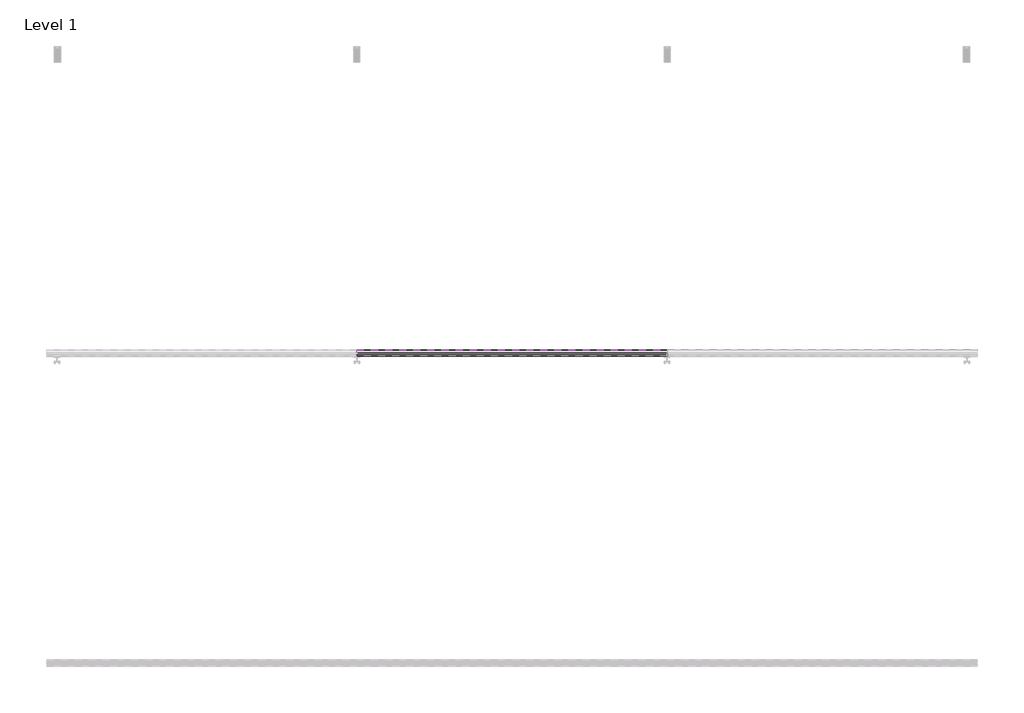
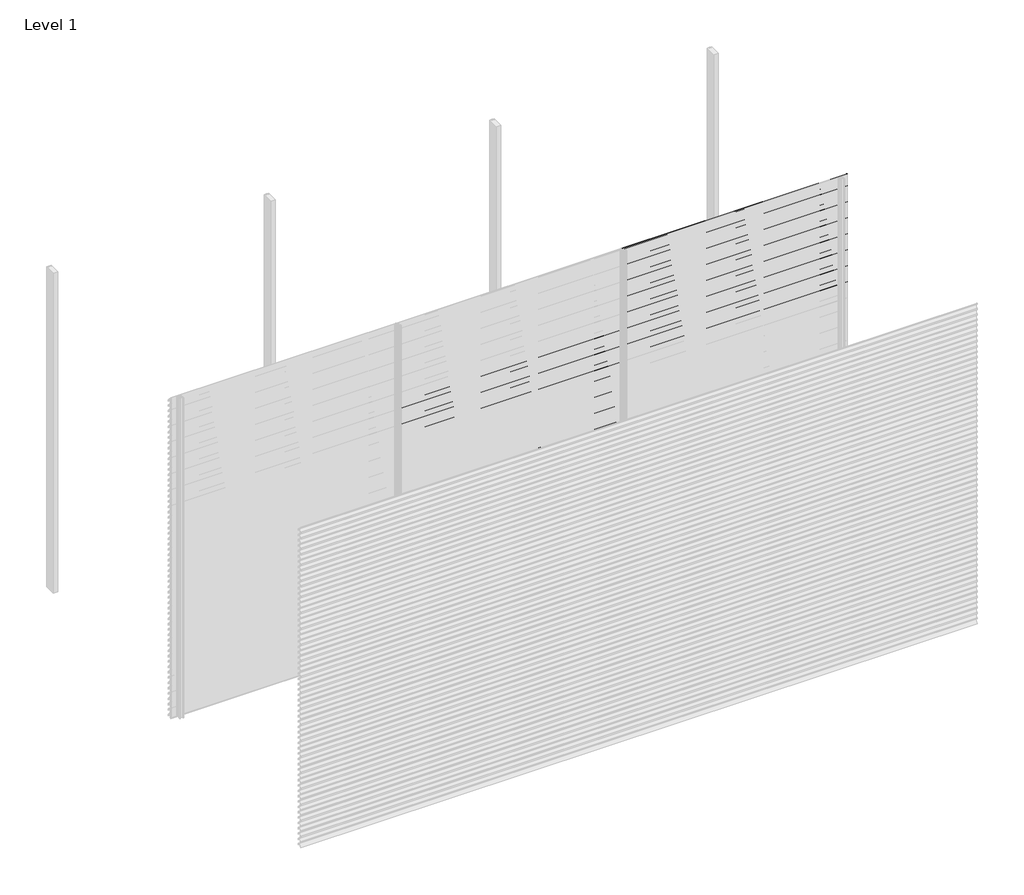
# One storey, part 12 of 38: 66 proxies.
"""IFC4 building model written with IfcOpenShell, lengths in millimetres."""

from ifc_helpers import new_model, si_unit, frame, origin, place, context, project, spatial, polyline, outline, extrude, element, save

model = new_model("IFC4")

# Units and contexts
model_context = context("Model", 3, world=origin())
ifc_project = project(units=[si_unit("LENGTHUNIT", "METRE", prefix="MILLI")], contexts=[model_context])

# Site, building, storey
site = spatial("IfcSite", under=ifc_project)
building = spatial("IfcBuilding", under=site)
storey = spatial("IfcBuildingStorey", under=building, Name="Level 1", Elevation=0.0)

# Proxies
placement = place(None, origin())
element("IfcBuildingElementProxy", 1, Name="Wall Sweeps", at=placement, inside=storey, context=model_context, shape_type="SweptSolid", body=[
    extrude(outline(polyline([(-41996.75, 2250.0), (-41996.75, 2239.19656), (-41974.6057113, 2226.4115489), (-41957.0, 2209.0472005), (-41957.0, 2194.0472005), (-41958.3, 2195.0268207), (-41958.3, 2208.5034593), (-41969.4914725, 2219.541504), (-41994.2797376, 2190.0), (-41995.9767671, 2190.0), (-41970.4200307, 2220.4573323), (-41975.3999793, 2225.3690091), (-41998.0, 2238.4171371), (-41998.0, 2250.0), (-41996.75, 2250.0)])), frame((2000.0, 0.0, 0.0), z_axis=(1.0, 0.0, 0.0), x_axis=(0.0, 1.0, 0.0)), (0.0, 0.0, 1.0), 2000.0),
])
element("IfcBuildingElementProxy", 2, Name="Wall Sweeps", at=placement, inside=storey, context=model_context, shape_type="SweptSolid", body=[
    extrude(outline(polyline([(-41996.75, 2200.0), (-41996.75, 2189.19656), (-41974.6057113, 2176.4115489), (-41957.0, 2159.0472005), (-41957.0, 2144.0472005), (-41958.3, 2145.0268207), (-41958.3, 2158.5034593), (-41969.4914725, 2169.541504), (-41994.2797376, 2140.0), (-41995.9767671, 2140.0), (-41970.4200307, 2170.4573323), (-41975.3999793, 2175.3690091), (-41998.0, 2188.4171371), (-41998.0, 2200.0), (-41996.75, 2200.0)])), frame((2000.0, 0.0, 0.0), z_axis=(1.0, 0.0, 0.0), x_axis=(0.0, 1.0, 0.0)), (0.0, 0.0, 1.0), 2000.0),
])
element("IfcBuildingElementProxy", 3, Name="Wall Sweeps", at=placement, inside=storey, context=model_context, shape_type="SweptSolid", body=[
    extrude(outline(polyline([(-41996.75, 2150.0), (-41996.75, 2139.19656), (-41974.6057113, 2126.4115489), (-41957.0, 2109.0472005), (-41957.0, 2094.0472005), (-41958.3, 2095.0268207), (-41958.3, 2108.5034593), (-41969.4914725, 2119.541504), (-41994.2797376, 2090.0), (-41995.9767671, 2090.0), (-41970.4200307, 2120.4573323), (-41975.3999793, 2125.3690091), (-41998.0, 2138.4171371), (-41998.0, 2150.0), (-41996.75, 2150.0)])), frame((2000.0, 0.0, 0.0), z_axis=(1.0, 0.0, 0.0), x_axis=(0.0, 1.0, 0.0)), (0.0, 0.0, 1.0), 2000.0),
])
element("IfcBuildingElementProxy", 4, Name="Wall Sweeps", at=placement, inside=storey, context=model_context, shape_type="SweptSolid", body=[
    extrude(outline(polyline([(-41996.75, 2100.0), (-41996.75, 2089.19656), (-41974.6057113, 2076.4115489), (-41957.0, 2059.0472005), (-41957.0, 2044.0472005), (-41958.3, 2045.0268207), (-41958.3, 2058.5034593), (-41969.4914725, 2069.541504), (-41994.2797376, 2040.0), (-41995.9767671, 2040.0), (-41970.4200307, 2070.4573323), (-41975.3999793, 2075.3690091), (-41998.0, 2088.4171371), (-41998.0, 2100.0), (-41996.75, 2100.0)])), frame((2000.0, 0.0, 0.0), z_axis=(1.0, 0.0, 0.0), x_axis=(0.0, 1.0, 0.0)), (0.0, 0.0, 1.0), 2000.0),
])
element("IfcBuildingElementProxy", 5, Name="Wall Sweeps", at=placement, inside=storey, context=model_context, shape_type="SweptSolid", body=[
    extrude(outline(polyline([(-41996.75, 2050.0), (-41996.75, 2039.19656), (-41974.6057113, 2026.4115489), (-41957.0, 2009.0472005), (-41957.0, 1994.0472005), (-41958.3, 1995.0268207), (-41958.3, 2008.5034593), (-41969.4914725, 2019.541504), (-41994.2797376, 1990.0), (-41995.9767671, 1990.0), (-41970.4200307, 2020.4573323), (-41975.3999793, 2025.3690091), (-41998.0, 2038.4171371), (-41998.0, 2050.0), (-41996.75, 2050.0)])), frame((2000.0, 0.0, 0.0), z_axis=(1.0, 0.0, 0.0), x_axis=(0.0, 1.0, 0.0)), (0.0, 0.0, 1.0), 2000.0),
])
element("IfcBuildingElementProxy", 6, Name="Wall Sweeps", at=placement, inside=storey, context=model_context, shape_type="SweptSolid", body=[
    extrude(outline(polyline([(-41996.75, 2000.0), (-41996.75, 1989.19656), (-41974.6057113, 1976.4115489), (-41957.0, 1959.0472005), (-41957.0, 1944.0472005), (-41958.3, 1945.0268207), (-41958.3, 1958.5034593), (-41969.4914725, 1969.541504), (-41994.2797376, 1940.0), (-41995.9767671, 1940.0), (-41970.4200307, 1970.4573323), (-41975.3999793, 1975.3690091), (-41998.0, 1988.4171371), (-41998.0, 2000.0), (-41996.75, 2000.0)])), frame((2000.0, 0.0, 0.0), z_axis=(1.0, 0.0, 0.0), x_axis=(0.0, 1.0, 0.0)), (0.0, 0.0, 1.0), 2000.0),
])
element("IfcBuildingElementProxy", 7, Name="Wall Sweeps", at=placement, inside=storey, context=model_context, shape_type="SweptSolid", body=[
    extrude(outline(polyline([(-41996.75, 1950.0), (-41996.75, 1939.19656), (-41974.6057113, 1926.4115489), (-41957.0, 1909.0472005), (-41957.0, 1894.0472005), (-41958.3, 1895.0268207), (-41958.3, 1908.5034593), (-41969.4914725, 1919.541504), (-41994.2797376, 1890.0), (-41995.9767671, 1890.0), (-41970.4200307, 1920.4573323), (-41975.3999793, 1925.3690091), (-41998.0, 1938.4171371), (-41998.0, 1950.0), (-41996.75, 1950.0)])), frame((2000.0, 0.0, 0.0), z_axis=(1.0, 0.0, 0.0), x_axis=(0.0, 1.0, 0.0)), (0.0, 0.0, 1.0), 2000.0),
])
element("IfcBuildingElementProxy", 8, Name="Wall Sweeps", at=placement, inside=storey, context=model_context, shape_type="SweptSolid", body=[
    extrude(outline(polyline([(-41996.75, 1900.0), (-41996.75, 1889.19656), (-41974.6057113, 1876.4115489), (-41957.0, 1859.0472005), (-41957.0, 1844.0472005), (-41958.3, 1845.0268207), (-41958.3, 1858.5034593), (-41969.4914725, 1869.541504), (-41994.2797376, 1840.0), (-41995.9767671, 1840.0), (-41970.4200307, 1870.4573323), (-41975.3999793, 1875.3690091), (-41998.0, 1888.4171371), (-41998.0, 1900.0), (-41996.75, 1900.0)])), frame((2000.0, 0.0, 0.0), z_axis=(1.0, 0.0, 0.0), x_axis=(0.0, 1.0, 0.0)), (0.0, 0.0, 1.0), 2000.0),
])
element("IfcBuildingElementProxy", 9, Name="Wall Sweeps", at=placement, inside=storey, context=model_context, shape_type="SweptSolid", body=[
    extrude(outline(polyline([(-41996.75, 1850.0), (-41996.75, 1839.19656), (-41974.6057113, 1826.4115489), (-41957.0, 1809.0472005), (-41957.0, 1794.0472005), (-41958.3, 1795.0268207), (-41958.3, 1808.5034593), (-41969.4914725, 1819.541504), (-41994.2797376, 1790.0), (-41995.9767671, 1790.0), (-41970.4200307, 1820.4573323), (-41975.3999793, 1825.3690091), (-41998.0, 1838.4171371), (-41998.0, 1850.0), (-41996.75, 1850.0)])), frame((2000.0, 0.0, 0.0), z_axis=(1.0, 0.0, 0.0), x_axis=(0.0, 1.0, 0.0)), (0.0, 0.0, 1.0), 2000.0),
])
element("IfcBuildingElementProxy", 10, Name="Wall Sweeps", at=placement, inside=storey, context=model_context, shape_type="SweptSolid", body=[
    extrude(outline(polyline([(-41996.75, 1800.0), (-41996.75, 1789.19656), (-41974.6057113, 1776.4115489), (-41957.0, 1759.0472005), (-41957.0, 1744.0472005), (-41958.3, 1745.0268207), (-41958.3, 1758.5034593), (-41969.4914725, 1769.541504), (-41994.2797376, 1740.0), (-41995.9767671, 1740.0), (-41970.4200307, 1770.4573323), (-41975.3999793, 1775.3690091), (-41998.0, 1788.4171371), (-41998.0, 1800.0), (-41996.75, 1800.0)])), frame((2000.0, 0.0, 0.0), z_axis=(1.0, 0.0, 0.0), x_axis=(0.0, 1.0, 0.0)), (0.0, 0.0, 1.0), 2000.0),
])
element("IfcBuildingElementProxy", 11, Name="Wall Sweeps", at=placement, inside=storey, context=model_context, shape_type="SweptSolid", body=[
    extrude(outline(polyline([(-41996.75, 1750.0), (-41996.75, 1739.19656), (-41974.6057113, 1726.4115489), (-41957.0, 1709.0472005), (-41957.0, 1694.0472005), (-41958.3, 1695.0268207), (-41958.3, 1708.5034593), (-41969.4914725, 1719.541504), (-41994.2797376, 1690.0), (-41995.9767671, 1690.0), (-41970.4200307, 1720.4573323), (-41975.3999793, 1725.3690091), (-41998.0, 1738.4171371), (-41998.0, 1750.0), (-41996.75, 1750.0)])), frame((2000.0, 0.0, 0.0), z_axis=(1.0, 0.0, 0.0), x_axis=(0.0, 1.0, 0.0)), (0.0, 0.0, 1.0), 2000.0),
])
element("IfcBuildingElementProxy", 12, Name="Wall Sweeps", at=placement, inside=storey, context=model_context, shape_type="SweptSolid", body=[
    extrude(outline(polyline([(-41996.75, 1700.0), (-41996.75, 1689.19656), (-41974.6057113, 1676.4115489), (-41957.0, 1659.0472005), (-41957.0, 1644.0472005), (-41958.3, 1645.0268207), (-41958.3, 1658.5034593), (-41969.4914725, 1669.541504), (-41994.2797376, 1640.0), (-41995.9767671, 1640.0), (-41970.4200307, 1670.4573323), (-41975.3999793, 1675.3690091), (-41998.0, 1688.4171371), (-41998.0, 1700.0), (-41996.75, 1700.0)])), frame((2000.0, 0.0, 0.0), z_axis=(1.0, 0.0, 0.0), x_axis=(0.0, 1.0, 0.0)), (0.0, 0.0, 1.0), 2000.0),
])
element("IfcBuildingElementProxy", 13, Name="Wall Sweeps", at=placement, inside=storey, context=model_context, shape_type="SweptSolid", body=[
    extrude(outline(polyline([(-41996.75, 1650.0), (-41996.75, 1639.19656), (-41974.6057113, 1626.4115489), (-41957.0, 1609.0472005), (-41957.0, 1594.0472005), (-41958.3, 1595.0268207), (-41958.3, 1608.5034593), (-41969.4914725, 1619.541504), (-41994.2797376, 1590.0), (-41995.9767671, 1590.0), (-41970.4200307, 1620.4573323), (-41975.3999793, 1625.3690091), (-41998.0, 1638.4171371), (-41998.0, 1650.0), (-41996.75, 1650.0)])), frame((2000.0, 0.0, 0.0), z_axis=(1.0, 0.0, 0.0), x_axis=(0.0, 1.0, 0.0)), (0.0, 0.0, 1.0), 2000.0),
])
element("IfcBuildingElementProxy", 14, Name="Wall Sweeps", at=placement, inside=storey, context=model_context, shape_type="SweptSolid", body=[
    extrude(outline(polyline([(-41996.75, 1600.0), (-41996.75, 1589.19656), (-41974.6057113, 1576.4115489), (-41957.0, 1559.0472005), (-41957.0, 1544.0472005), (-41958.3, 1545.0268207), (-41958.3, 1558.5034593), (-41969.4914725, 1569.541504), (-41994.2797376, 1540.0), (-41995.9767671, 1540.0), (-41970.4200307, 1570.4573323), (-41975.3999793, 1575.3690091), (-41998.0, 1588.4171371), (-41998.0, 1600.0), (-41996.75, 1600.0)])), frame((2000.0, 0.0, 0.0), z_axis=(1.0, 0.0, 0.0), x_axis=(0.0, 1.0, 0.0)), (0.0, 0.0, 1.0), 2000.0),
])
element("IfcBuildingElementProxy", 15, Name="Wall Sweeps", at=placement, inside=storey, context=model_context, shape_type="SweptSolid", body=[
    extrude(outline(polyline([(-41996.75, 1550.0), (-41996.75, 1539.19656), (-41974.6057113, 1526.4115489), (-41957.0, 1509.0472005), (-41957.0, 1494.0472005), (-41958.3, 1495.0268207), (-41958.3, 1508.5034593), (-41969.4914725, 1519.541504), (-41994.2797376, 1490.0), (-41995.9767671, 1490.0), (-41970.4200307, 1520.4573323), (-41975.3999793, 1525.3690091), (-41998.0, 1538.4171371), (-41998.0, 1550.0), (-41996.75, 1550.0)])), frame((2000.0, 0.0, 0.0), z_axis=(1.0, 0.0, 0.0), x_axis=(0.0, 1.0, 0.0)), (0.0, 0.0, 1.0), 2000.0),
])
element("IfcBuildingElementProxy", 16, Name="Wall Sweeps", at=placement, inside=storey, context=model_context, shape_type="SweptSolid", body=[
    extrude(outline(polyline([(-41996.75, 1500.0), (-41996.75, 1489.19656), (-41974.6057113, 1476.4115489), (-41957.0, 1459.0472005), (-41957.0, 1444.0472005), (-41958.3, 1445.0268207), (-41958.3, 1458.5034593), (-41969.4914725, 1469.541504), (-41994.2797376, 1440.0), (-41995.9767671, 1440.0), (-41970.4200307, 1470.4573323), (-41975.3999793, 1475.3690091), (-41998.0, 1488.4171371), (-41998.0, 1500.0), (-41996.75, 1500.0)])), frame((2000.0, 0.0, 0.0), z_axis=(1.0, 0.0, 0.0), x_axis=(0.0, 1.0, 0.0)), (0.0, 0.0, 1.0), 2000.0),
])
element("IfcBuildingElementProxy", 17, Name="Wall Sweeps", at=placement, inside=storey, context=model_context, shape_type="SweptSolid", body=[
    extrude(outline(polyline([(-41996.75, 1450.0), (-41996.75, 1439.19656), (-41974.6057113, 1426.4115489), (-41957.0, 1409.0472005), (-41957.0, 1394.0472005), (-41958.3, 1395.0268207), (-41958.3, 1408.5034593), (-41969.4914725, 1419.541504), (-41994.2797376, 1390.0), (-41995.9767671, 1390.0), (-41970.4200307, 1420.4573323), (-41975.3999793, 1425.3690091), (-41998.0, 1438.4171371), (-41998.0, 1450.0), (-41996.75, 1450.0)])), frame((2000.0, 0.0, 0.0), z_axis=(1.0, 0.0, 0.0), x_axis=(0.0, 1.0, 0.0)), (0.0, 0.0, 1.0), 2000.0),
])
element("IfcBuildingElementProxy", 18, Name="Wall Sweeps", at=placement, inside=storey, context=model_context, shape_type="SweptSolid", body=[
    extrude(outline(polyline([(-41996.75, 1400.0), (-41996.75, 1389.19656), (-41974.6057113, 1376.4115489), (-41957.0, 1359.0472005), (-41957.0, 1344.0472005), (-41958.3, 1345.0268207), (-41958.3, 1358.5034593), (-41969.4914725, 1369.541504), (-41994.2797376, 1340.0), (-41995.9767671, 1340.0), (-41970.4200307, 1370.4573323), (-41975.3999793, 1375.3690091), (-41998.0, 1388.4171371), (-41998.0, 1400.0), (-41996.75, 1400.0)])), frame((2000.0, 0.0, 0.0), z_axis=(1.0, 0.0, 0.0), x_axis=(0.0, 1.0, 0.0)), (0.0, 0.0, 1.0), 2000.0),
])
element("IfcBuildingElementProxy", 19, Name="Wall Sweeps", at=placement, inside=storey, context=model_context, shape_type="SweptSolid", body=[
    extrude(outline(polyline([(-41996.75, 1350.0), (-41996.75, 1339.19656), (-41974.6057113, 1326.4115489), (-41957.0, 1309.0472005), (-41957.0, 1294.0472005), (-41958.3, 1295.0268207), (-41958.3, 1308.5034593), (-41969.4914725, 1319.541504), (-41994.2797376, 1290.0), (-41995.9767671, 1290.0), (-41970.4200307, 1320.4573323), (-41975.3999793, 1325.3690091), (-41998.0, 1338.4171371), (-41998.0, 1350.0), (-41996.75, 1350.0)])), frame((2000.0, 0.0, 0.0), z_axis=(1.0, 0.0, 0.0), x_axis=(0.0, 1.0, 0.0)), (0.0, 0.0, 1.0), 2000.0),
])
element("IfcBuildingElementProxy", 20, Name="Wall Sweeps", at=placement, inside=storey, context=model_context, shape_type="SweptSolid", body=[
    extrude(outline(polyline([(-41996.75, 1300.0), (-41996.75, 1289.19656), (-41974.6057113, 1276.4115489), (-41957.0, 1259.0472005), (-41957.0, 1244.0472005), (-41958.3, 1245.0268207), (-41958.3, 1258.5034593), (-41969.4914725, 1269.541504), (-41994.2797376, 1240.0), (-41995.9767671, 1240.0), (-41970.4200307, 1270.4573323), (-41975.3999793, 1275.3690091), (-41998.0, 1288.4171371), (-41998.0, 1300.0), (-41996.75, 1300.0)])), frame((2000.0, 0.0, 0.0), z_axis=(1.0, 0.0, 0.0), x_axis=(0.0, 1.0, 0.0)), (0.0, 0.0, 1.0), 2000.0),
])
element("IfcBuildingElementProxy", 21, Name="Wall Sweeps", at=placement, inside=storey, context=model_context, shape_type="SweptSolid", body=[
    extrude(outline(polyline([(-41996.75, 1250.0), (-41996.75, 1239.19656), (-41974.6057113, 1226.4115489), (-41957.0, 1209.0472005), (-41957.0, 1194.0472005), (-41958.3, 1195.0268207), (-41958.3, 1208.5034593), (-41969.4914725, 1219.541504), (-41994.2797376, 1190.0), (-41995.9767671, 1190.0), (-41970.4200307, 1220.4573323), (-41975.3999793, 1225.3690091), (-41998.0, 1238.4171371), (-41998.0, 1250.0), (-41996.75, 1250.0)])), frame((2000.0, 0.0, 0.0), z_axis=(1.0, 0.0, 0.0), x_axis=(0.0, 1.0, 0.0)), (0.0, 0.0, 1.0), 2000.0),
])
element("IfcBuildingElementProxy", 22, Name="Wall Sweeps", at=placement, inside=storey, context=model_context, shape_type="SweptSolid", body=[
    extrude(outline(polyline([(-41996.75, 1200.0), (-41996.75, 1189.19656), (-41974.6057113, 1176.4115489), (-41957.0, 1159.0472005), (-41957.0, 1144.0472005), (-41958.3, 1145.0268207), (-41958.3, 1158.5034593), (-41969.4914725, 1169.541504), (-41994.2797376, 1140.0), (-41995.9767671, 1140.0), (-41970.4200307, 1170.4573323), (-41975.3999793, 1175.3690091), (-41998.0, 1188.4171371), (-41998.0, 1200.0), (-41996.75, 1200.0)])), frame((2000.0, 0.0, 0.0), z_axis=(1.0, 0.0, 0.0), x_axis=(0.0, 1.0, 0.0)), (0.0, 0.0, 1.0), 2000.0),
])
element("IfcBuildingElementProxy", 23, Name="Wall Sweeps", at=placement, inside=storey, context=model_context, shape_type="SweptSolid", body=[
    extrude(outline(polyline([(-41996.75, 1150.0), (-41996.75, 1139.19656), (-41974.6057113, 1126.4115489), (-41957.0, 1109.0472005), (-41957.0, 1094.0472005), (-41958.3, 1095.0268207), (-41958.3, 1108.5034593), (-41969.4914725, 1119.541504), (-41994.2797376, 1090.0), (-41995.9767671, 1090.0), (-41970.4200307, 1120.4573323), (-41975.3999793, 1125.3690091), (-41998.0, 1138.4171371), (-41998.0, 1150.0), (-41996.75, 1150.0)])), frame((2000.0, 0.0, 0.0), z_axis=(1.0, 0.0, 0.0), x_axis=(0.0, 1.0, 0.0)), (0.0, 0.0, 1.0), 2000.0),
])
element("IfcBuildingElementProxy", 24, Name="Wall Sweeps", at=placement, inside=storey, context=model_context, shape_type="SweptSolid", body=[
    extrude(outline(polyline([(-41996.75, 1100.0), (-41996.75, 1089.19656), (-41974.6057113, 1076.4115489), (-41957.0, 1059.0472005), (-41957.0, 1044.0472005), (-41958.3, 1045.0268207), (-41958.3, 1058.5034593), (-41969.4914725, 1069.541504), (-41994.2797376, 1040.0), (-41995.9767671, 1040.0), (-41970.4200307, 1070.4573323), (-41975.3999793, 1075.3690091), (-41998.0, 1088.4171371), (-41998.0, 1100.0), (-41996.75, 1100.0)])), frame((2000.0, 0.0, 0.0), z_axis=(1.0, 0.0, 0.0), x_axis=(0.0, 1.0, 0.0)), (0.0, 0.0, 1.0), 2000.0),
])
element("IfcBuildingElementProxy", 25, Name="Wall Sweeps", at=placement, inside=storey, context=model_context, shape_type="SweptSolid", body=[
    extrude(outline(polyline([(-41996.75, 1050.0), (-41996.75, 1039.19656), (-41974.6057113, 1026.4115489), (-41957.0, 1009.0472005), (-41957.0, 994.0472005), (-41958.3, 995.0268207), (-41958.3, 1008.5034593), (-41969.4914725, 1019.541504), (-41994.2797376, 990.0), (-41995.9767671, 990.0), (-41970.4200307, 1020.4573323), (-41975.3999793, 1025.3690091), (-41998.0, 1038.4171371), (-41998.0, 1050.0), (-41996.75, 1050.0)])), frame((2000.0, 0.0, 0.0), z_axis=(1.0, 0.0, 0.0), x_axis=(0.0, 1.0, 0.0)), (0.0, 0.0, 1.0), 2000.0),
])
element("IfcBuildingElementProxy", 26, Name="Wall Sweeps", at=placement, inside=storey, context=model_context, shape_type="SweptSolid", body=[
    extrude(outline(polyline([(-41996.75, 1000.0), (-41996.75, 989.19656), (-41974.6057113, 976.4115489), (-41957.0, 959.0472005), (-41957.0, 944.0472005), (-41958.3, 945.0268207), (-41958.3, 958.5034593), (-41969.4914725, 969.541504), (-41994.2797376, 940.0), (-41995.9767671, 940.0), (-41970.4200307, 970.4573323), (-41975.3999793, 975.3690091), (-41998.0, 988.4171371), (-41998.0, 1000.0), (-41996.75, 1000.0)])), frame((2000.0, 0.0, 0.0), z_axis=(1.0, 0.0, 0.0), x_axis=(0.0, 1.0, 0.0)), (0.0, 0.0, 1.0), 2000.0),
])
element("IfcBuildingElementProxy", 27, Name="Wall Sweeps", at=placement, inside=storey, context=model_context, shape_type="SweptSolid", body=[
    extrude(outline(polyline([(-41996.75, 950.0), (-41996.75, 939.19656), (-41974.6057113, 926.4115489), (-41957.0, 909.0472005), (-41957.0, 894.0472005), (-41958.3, 895.0268207), (-41958.3, 908.5034593), (-41969.4914725, 919.541504), (-41994.2797376, 890.0), (-41995.9767671, 890.0), (-41970.4200307, 920.4573323), (-41975.3999793, 925.3690091), (-41998.0, 938.4171371), (-41998.0, 950.0), (-41996.75, 950.0)])), frame((2000.0, 0.0, 0.0), z_axis=(1.0, 0.0, 0.0), x_axis=(0.0, 1.0, 0.0)), (0.0, 0.0, 1.0), 2000.0),
])
element("IfcBuildingElementProxy", 28, Name="Wall Sweeps", at=placement, inside=storey, context=model_context, shape_type="SweptSolid", body=[
    extrude(outline(polyline([(-41996.75, 900.0), (-41996.75, 889.19656), (-41974.6057113, 876.4115489), (-41957.0, 859.0472005), (-41957.0, 844.0472005), (-41958.3, 845.0268207), (-41958.3, 858.5034593), (-41969.4914725, 869.541504), (-41994.2797376, 840.0), (-41995.9767671, 840.0), (-41970.4200307, 870.4573323), (-41975.3999793, 875.3690091), (-41998.0, 888.4171371), (-41998.0, 900.0), (-41996.75, 900.0)])), frame((2000.0, 0.0, 0.0), z_axis=(1.0, 0.0, 0.0), x_axis=(0.0, 1.0, 0.0)), (0.0, 0.0, 1.0), 2000.0),
])
element("IfcBuildingElementProxy", 29, Name="Wall Sweeps", at=placement, inside=storey, context=model_context, shape_type="SweptSolid", body=[
    extrude(outline(polyline([(-41996.75, 850.0), (-41996.75, 839.19656), (-41974.6057113, 826.4115489), (-41957.0, 809.0472005), (-41957.0, 794.0472005), (-41958.3, 795.0268207), (-41958.3, 808.5034593), (-41969.4914725, 819.541504), (-41994.2797376, 790.0), (-41995.9767671, 790.0), (-41970.4200307, 820.4573323), (-41975.3999793, 825.3690091), (-41998.0, 838.4171371), (-41998.0, 850.0), (-41996.75, 850.0)])), frame((2000.0, 0.0, 0.0), z_axis=(1.0, 0.0, 0.0), x_axis=(0.0, 1.0, 0.0)), (0.0, 0.0, 1.0), 2000.0),
])
element("IfcBuildingElementProxy", 30, Name="Wall Sweeps", at=placement, inside=storey, context=model_context, shape_type="SweptSolid", body=[
    extrude(outline(polyline([(-41996.75, 800.0), (-41996.75, 789.19656), (-41974.6057113, 776.4115489), (-41957.0, 759.0472005), (-41957.0, 744.0472005), (-41958.3, 745.0268207), (-41958.3, 758.5034593), (-41969.4914725, 769.541504), (-41994.2797376, 740.0), (-41995.9767671, 740.0), (-41970.4200307, 770.4573323), (-41975.3999793, 775.3690091), (-41998.0, 788.4171371), (-41998.0, 800.0), (-41996.75, 800.0)])), frame((2000.0, 0.0, 0.0), z_axis=(1.0, 0.0, 0.0), x_axis=(0.0, 1.0, 0.0)), (0.0, 0.0, 1.0), 2000.0),
])
element("IfcBuildingElementProxy", 31, Name="Wall Sweeps", at=placement, inside=storey, context=model_context, shape_type="SweptSolid", body=[
    extrude(outline(polyline([(-41996.75, 750.0), (-41996.75, 739.19656), (-41974.6057113, 726.4115489), (-41957.0, 709.0472005), (-41957.0, 694.0472005), (-41958.3, 695.0268207), (-41958.3, 708.5034593), (-41969.4914725, 719.541504), (-41994.2797376, 690.0), (-41995.9767671, 690.0), (-41970.4200307, 720.4573323), (-41975.3999793, 725.3690091), (-41998.0, 738.4171371), (-41998.0, 750.0), (-41996.75, 750.0)])), frame((2000.0, 0.0, 0.0), z_axis=(1.0, 0.0, 0.0), x_axis=(0.0, 1.0, 0.0)), (0.0, 0.0, 1.0), 2000.0),
])
element("IfcBuildingElementProxy", 32, Name="Wall Sweeps", at=placement, inside=storey, context=model_context, shape_type="SweptSolid", body=[
    extrude(outline(polyline([(-41996.75, 700.0), (-41996.75, 689.19656), (-41974.6057113, 676.4115489), (-41957.0, 659.0472005), (-41957.0, 644.0472005), (-41958.3, 645.0268207), (-41958.3, 658.5034593), (-41969.4914725, 669.541504), (-41994.2797376, 640.0), (-41995.9767671, 640.0), (-41970.4200307, 670.4573323), (-41975.3999793, 675.3690091), (-41998.0, 688.4171371), (-41998.0, 700.0), (-41996.75, 700.0)])), frame((2000.0, 0.0, 0.0), z_axis=(1.0, 0.0, 0.0), x_axis=(0.0, 1.0, 0.0)), (0.0, 0.0, 1.0), 2000.0),
])
element("IfcBuildingElementProxy", 33, Name="Wall Sweeps", at=placement, inside=storey, context=model_context, shape_type="SweptSolid", body=[
    extrude(outline(polyline([(-41996.75, 650.0), (-41996.75, 639.19656), (-41974.6057113, 626.4115489), (-41957.0, 609.0472005), (-41957.0, 594.0472005), (-41958.3, 595.0268207), (-41958.3, 608.5034593), (-41969.4914725, 619.541504), (-41994.2797376, 590.0), (-41995.9767671, 590.0), (-41970.4200307, 620.4573323), (-41975.3999793, 625.3690091), (-41998.0, 638.4171371), (-41998.0, 650.0), (-41996.75, 650.0)])), frame((2000.0, 0.0, 0.0), z_axis=(1.0, 0.0, 0.0), x_axis=(0.0, 1.0, 0.0)), (0.0, 0.0, 1.0), 2000.0),
])
element("IfcBuildingElementProxy", 34, Name="Wall Sweeps", at=placement, inside=storey, context=model_context, shape_type="SweptSolid", body=[
    extrude(outline(polyline([(-41996.75, 600.0), (-41996.75, 589.19656), (-41974.6057113, 576.4115489), (-41957.0, 559.0472005), (-41957.0, 544.0472005), (-41958.3, 545.0268207), (-41958.3, 558.5034593), (-41969.4914725, 569.541504), (-41994.2797376, 540.0), (-41995.9767671, 540.0), (-41970.4200307, 570.4573323), (-41975.3999793, 575.3690091), (-41998.0, 588.4171371), (-41998.0, 600.0), (-41996.75, 600.0)])), frame((2000.0, 0.0, 0.0), z_axis=(1.0, 0.0, 0.0), x_axis=(0.0, 1.0, 0.0)), (0.0, 0.0, 1.0), 2000.0),
])
element("IfcBuildingElementProxy", 35, Name="Wall Sweeps", at=placement, inside=storey, context=model_context, shape_type="SweptSolid", body=[
    extrude(outline(polyline([(-41996.75, 550.0), (-41996.75, 539.19656), (-41974.6057113, 526.4115489), (-41957.0, 509.0472005), (-41957.0, 494.0472005), (-41958.3, 495.0268207), (-41958.3, 508.5034593), (-41969.4914725, 519.541504), (-41994.2797376, 490.0), (-41995.9767671, 490.0), (-41970.4200307, 520.4573323), (-41975.3999793, 525.3690091), (-41998.0, 538.4171371), (-41998.0, 550.0), (-41996.75, 550.0)])), frame((2000.0, 0.0, 0.0), z_axis=(1.0, 0.0, 0.0), x_axis=(0.0, 1.0, 0.0)), (0.0, 0.0, 1.0), 2000.0),
])
element("IfcBuildingElementProxy", 36, Name="Wall Sweeps", at=placement, inside=storey, context=model_context, shape_type="SweptSolid", body=[
    extrude(outline(polyline([(-41996.75, 500.0), (-41996.75, 489.19656), (-41974.6057113, 476.4115489), (-41957.0, 459.0472005), (-41957.0, 444.0472005), (-41958.3, 445.0268207), (-41958.3, 458.5034593), (-41969.4914725, 469.541504), (-41994.2797376, 440.0), (-41995.9767671, 440.0), (-41970.4200307, 470.4573323), (-41975.3999793, 475.3690091), (-41998.0, 488.4171371), (-41998.0, 500.0), (-41996.75, 500.0)])), frame((2000.0, 0.0, 0.0), z_axis=(1.0, 0.0, 0.0), x_axis=(0.0, 1.0, 0.0)), (0.0, 0.0, 1.0), 2000.0),
])
element("IfcBuildingElementProxy", 37, Name="Wall Sweeps", at=placement, inside=storey, context=model_context, shape_type="SweptSolid", body=[
    extrude(outline(polyline([(-41996.75, 450.0), (-41996.75, 439.19656), (-41974.6057113, 426.4115489), (-41957.0, 409.0472005), (-41957.0, 394.0472005), (-41958.3, 395.0268207), (-41958.3, 408.5034593), (-41969.4914725, 419.541504), (-41994.2797376, 390.0), (-41995.9767671, 390.0), (-41970.4200307, 420.4573323), (-41975.3999793, 425.3690091), (-41998.0, 438.4171371), (-41998.0, 450.0), (-41996.75, 450.0)])), frame((2000.0, 0.0, 0.0), z_axis=(1.0, 0.0, 0.0), x_axis=(0.0, 1.0, 0.0)), (0.0, 0.0, 1.0), 2000.0),
])
element("IfcBuildingElementProxy", 38, Name="Wall Sweeps", at=placement, inside=storey, context=model_context, shape_type="SweptSolid", body=[
    extrude(outline(polyline([(-41996.75, 400.0), (-41996.75, 389.19656), (-41974.6057113, 376.4115489), (-41957.0, 359.0472005), (-41957.0, 344.0472005), (-41958.3, 345.0268207), (-41958.3, 358.5034593), (-41969.4914725, 369.541504), (-41994.2797376, 340.0), (-41995.9767671, 340.0), (-41970.4200307, 370.4573323), (-41975.3999793, 375.3690091), (-41998.0, 388.4171371), (-41998.0, 400.0), (-41996.75, 400.0)])), frame((2000.0, 0.0, 0.0), z_axis=(1.0, 0.0, 0.0), x_axis=(0.0, 1.0, 0.0)), (0.0, 0.0, 1.0), 2000.0),
])
element("IfcBuildingElementProxy", 39, Name="Wall Sweeps", at=placement, inside=storey, context=model_context, shape_type="SweptSolid", body=[
    extrude(outline(polyline([(-41996.75, 350.0), (-41996.75, 339.19656), (-41974.6057113, 326.4115489), (-41957.0, 309.0472005), (-41957.0, 294.0472005), (-41958.3, 295.0268207), (-41958.3, 308.5034593), (-41969.4914725, 319.541504), (-41994.2797376, 290.0), (-41995.9767671, 290.0), (-41970.4200307, 320.4573323), (-41975.3999793, 325.3690091), (-41998.0, 338.4171371), (-41998.0, 350.0), (-41996.75, 350.0)])), frame((2000.0, 0.0, 0.0), z_axis=(1.0, 0.0, 0.0), x_axis=(0.0, 1.0, 0.0)), (0.0, 0.0, 1.0), 2000.0),
])
element("IfcBuildingElementProxy", 40, Name="Wall Sweeps", at=placement, inside=storey, context=model_context, shape_type="SweptSolid", body=[
    extrude(outline(polyline([(-41996.75, 300.0), (-41996.75, 289.19656), (-41974.6057113, 276.4115489), (-41957.0, 259.0472005), (-41957.0, 244.0472005), (-41958.3, 245.0268207), (-41958.3, 258.5034593), (-41969.4914725, 269.541504), (-41994.2797376, 240.0), (-41995.9767671, 240.0), (-41970.4200307, 270.4573323), (-41975.3999793, 275.3690091), (-41998.0, 288.4171371), (-41998.0, 300.0), (-41996.75, 300.0)])), frame((2000.0, 0.0, 0.0), z_axis=(1.0, 0.0, 0.0), x_axis=(0.0, 1.0, 0.0)), (0.0, 0.0, 1.0), 2000.0),
])
element("IfcBuildingElementProxy", 41, Name="Wall Sweeps", at=placement, inside=storey, context=model_context, shape_type="SweptSolid", body=[
    extrude(outline(polyline([(-41996.75, 250.0), (-41996.75, 239.19656), (-41974.6057113, 226.4115489), (-41957.0, 209.0472005), (-41957.0, 194.0472005), (-41958.3, 195.0268207), (-41958.3, 208.5034593), (-41969.4914725, 219.541504), (-41994.2797376, 190.0), (-41995.9767671, 190.0), (-41970.4200307, 220.4573323), (-41975.3999793, 225.3690091), (-41998.0, 238.4171371), (-41998.0, 250.0), (-41996.75, 250.0)])), frame((2000.0, 0.0, 0.0), z_axis=(1.0, 0.0, 0.0), x_axis=(0.0, 1.0, 0.0)), (0.0, 0.0, 1.0), 2000.0),
])
element("IfcBuildingElementProxy", 42, Name="Wall Sweeps", at=placement, inside=storey, context=model_context, shape_type="SweptSolid", body=[
    extrude(outline(polyline([(-41996.75, 200.0), (-41996.75, 189.19656), (-41974.6057113, 176.4115489), (-41957.0, 159.0472005), (-41957.0, 144.0472005), (-41958.3, 145.0268207), (-41958.3, 158.5034593), (-41969.4914725, 169.541504), (-41994.2797376, 140.0), (-41995.9767671, 140.0), (-41970.4200307, 170.4573323), (-41975.3999793, 175.3690091), (-41998.0, 188.4171371), (-41998.0, 200.0), (-41996.75, 200.0)])), frame((2000.0, 0.0, 0.0), z_axis=(1.0, 0.0, 0.0), x_axis=(0.0, 1.0, 0.0)), (0.0, 0.0, 1.0), 2000.0),
])
element("IfcBuildingElementProxy", 43, Name="Wall Sweeps", at=placement, inside=storey, context=model_context, shape_type="SweptSolid", body=[
    extrude(outline(polyline([(-41996.75, 150.0), (-41996.75, 139.19656), (-41974.6057113, 126.4115489), (-41957.0, 109.0472005), (-41957.0, 94.0472005), (-41958.3, 95.0268207), (-41958.3, 108.5034593), (-41969.4914725, 119.541504), (-41994.2797376, 90.0), (-41995.9767671, 90.0), (-41970.4200307, 120.4573323), (-41975.3999793, 125.3690091), (-41998.0, 138.4171371), (-41998.0, 150.0), (-41996.75, 150.0)])), frame((2000.0, 0.0, 0.0), z_axis=(1.0, 0.0, 0.0), x_axis=(0.0, 1.0, 0.0)), (0.0, 0.0, 1.0), 2000.0),
])
element("IfcBuildingElementProxy", 44, Name="Wall Sweeps", at=placement, inside=storey, context=model_context, shape_type="SweptSolid", body=[
    extrude(outline(polyline([(-41996.75, 100.0), (-41996.75, 89.19656), (-41974.6057113, 76.4115489), (-41957.0, 59.0472005), (-41957.0, 44.0472005), (-41958.3, 45.0268207), (-41958.3, 58.5034593), (-41969.4914725, 69.541504), (-41994.2797376, 40.0), (-41995.9767671, 40.0), (-41970.4200307, 70.4573323), (-41975.3999793, 75.3690091), (-41998.0, 88.4171371), (-41998.0, 100.0), (-41996.75, 100.0)])), frame((2000.0, 0.0, 0.0), z_axis=(1.0, 0.0, 0.0), x_axis=(0.0, 1.0, 0.0)), (0.0, 0.0, 1.0), 2000.0),
])
element("IfcBuildingElementProxy", 45, Name="Wall Sweeps", at=placement, inside=storey, context=model_context, shape_type="SweptSolid", body=[
    extrude(outline(polyline([(-41996.75, 50.0), (-41996.75, 39.19656), (-41974.6057113, 26.4115489), (-41957.0, 9.0472005), (-41957.0, -5.9527995), (-41958.3, -4.9731793), (-41958.3, 8.5034593), (-41969.4914725, 19.541504), (-41994.2797376, -10.0), (-41995.9767671, -10.0), (-41970.4200307, 20.4573323), (-41975.3999793, 25.3690091), (-41998.0, 38.4171371), (-41998.0, 50.0), (-41996.75, 50.0)])), frame((2000.0, 0.0, 0.0), z_axis=(1.0, 0.0, 0.0), x_axis=(0.0, 1.0, 0.0)), (0.0, 0.0, 1.0), 2000.0),
])
element("IfcBuildingElementProxy", 46, Name="Wall Sweeps", at=placement, inside=storey, context=model_context, shape_type="SweptSolid", body=[
    extrude(outline(polyline([(-41996.75, 3000.0), (-41996.75, 2989.19656), (-41974.6057113, 2976.4115489), (-41957.0, 2959.0472005), (-41957.0, 2944.0472005), (-41958.3, 2945.0268207), (-41958.3, 2958.5034593), (-41969.4914725, 2969.541504), (-41994.2797376, 2940.0), (-41995.9767671, 2940.0), (-41970.4200307, 2970.4573323), (-41975.3999793, 2975.3690091), (-41998.0, 2988.4171371), (-41998.0, 3000.0), (-41996.75, 3000.0)])), frame((4000.0, 0.0, 0.0), z_axis=(1.0, 0.0, 0.0), x_axis=(0.0, 1.0, 0.0)), (0.0, 0.0, 1.0), 2000.0),
])
element("IfcBuildingElementProxy", 47, Name="Wall Sweeps", at=placement, inside=storey, context=model_context, shape_type="SweptSolid", body=[
    extrude(outline(polyline([(-41996.75, 2950.0), (-41996.75, 2939.19656), (-41974.6057113, 2926.4115489), (-41957.0, 2909.0472005), (-41957.0, 2894.0472005), (-41958.3, 2895.0268207), (-41958.3, 2908.5034593), (-41969.4914725, 2919.541504), (-41994.2797376, 2890.0), (-41995.9767671, 2890.0), (-41970.4200307, 2920.4573323), (-41975.3999793, 2925.3690091), (-41998.0, 2938.4171371), (-41998.0, 2950.0), (-41996.75, 2950.0)])), frame((4000.0, 0.0, 0.0), z_axis=(1.0, 0.0, 0.0), x_axis=(0.0, 1.0, 0.0)), (0.0, 0.0, 1.0), 2000.0),
])
element("IfcBuildingElementProxy", 48, Name="Wall Sweeps", at=placement, inside=storey, context=model_context, shape_type="SweptSolid", body=[
    extrude(outline(polyline([(-41996.75, 2900.0), (-41996.75, 2889.19656), (-41974.6057113, 2876.4115489), (-41957.0, 2859.0472005), (-41957.0, 2844.0472005), (-41958.3, 2845.0268207), (-41958.3, 2858.5034593), (-41969.4914725, 2869.541504), (-41994.2797376, 2840.0), (-41995.9767671, 2840.0), (-41970.4200307, 2870.4573323), (-41975.3999793, 2875.3690091), (-41998.0, 2888.4171371), (-41998.0, 2900.0), (-41996.75, 2900.0)])), frame((4000.0, 0.0, 0.0), z_axis=(1.0, 0.0, 0.0), x_axis=(0.0, 1.0, 0.0)), (0.0, 0.0, 1.0), 2000.0),
])
element("IfcBuildingElementProxy", 49, Name="Wall Sweeps", at=placement, inside=storey, context=model_context, shape_type="SweptSolid", body=[
    extrude(outline(polyline([(-41996.75, 2850.0), (-41996.75, 2839.19656), (-41974.6057113, 2826.4115489), (-41957.0, 2809.0472005), (-41957.0, 2794.0472005), (-41958.3, 2795.0268207), (-41958.3, 2808.5034593), (-41969.4914725, 2819.541504), (-41994.2797376, 2790.0), (-41995.9767671, 2790.0), (-41970.4200307, 2820.4573323), (-41975.3999793, 2825.3690091), (-41998.0, 2838.4171371), (-41998.0, 2850.0), (-41996.75, 2850.0)])), frame((4000.0, 0.0, 0.0), z_axis=(1.0, 0.0, 0.0), x_axis=(0.0, 1.0, 0.0)), (0.0, 0.0, 1.0), 2000.0),
])
element("IfcBuildingElementProxy", 50, Name="Wall Sweeps", at=placement, inside=storey, context=model_context, shape_type="SweptSolid", body=[
    extrude(outline(polyline([(-41996.75, 2800.0), (-41996.75, 2789.19656), (-41974.6057113, 2776.4115489), (-41957.0, 2759.0472005), (-41957.0, 2744.0472005), (-41958.3, 2745.0268207), (-41958.3, 2758.5034593), (-41969.4914725, 2769.541504), (-41994.2797376, 2740.0), (-41995.9767671, 2740.0), (-41970.4200307, 2770.4573323), (-41975.3999793, 2775.3690091), (-41998.0, 2788.4171371), (-41998.0, 2800.0), (-41996.75, 2800.0)])), frame((4000.0, 0.0, 0.0), z_axis=(1.0, 0.0, 0.0), x_axis=(0.0, 1.0, 0.0)), (0.0, 0.0, 1.0), 2000.0),
])
element("IfcBuildingElementProxy", 51, Name="Wall Sweeps", at=placement, inside=storey, context=model_context, shape_type="SweptSolid", body=[
    extrude(outline(polyline([(-41996.75, 2750.0), (-41996.75, 2739.19656), (-41974.6057113, 2726.4115489), (-41957.0, 2709.0472005), (-41957.0, 2694.0472005), (-41958.3, 2695.0268207), (-41958.3, 2708.5034593), (-41969.4914725, 2719.541504), (-41994.2797376, 2690.0), (-41995.9767671, 2690.0), (-41970.4200307, 2720.4573323), (-41975.3999793, 2725.3690091), (-41998.0, 2738.4171371), (-41998.0, 2750.0), (-41996.75, 2750.0)])), frame((4000.0, 0.0, 0.0), z_axis=(1.0, 0.0, 0.0), x_axis=(0.0, 1.0, 0.0)), (0.0, 0.0, 1.0), 2000.0),
])
element("IfcBuildingElementProxy", 52, Name="Wall Sweeps", at=placement, inside=storey, context=model_context, shape_type="SweptSolid", body=[
    extrude(outline(polyline([(-41996.75, 2700.0), (-41996.75, 2689.19656), (-41974.6057113, 2676.4115489), (-41957.0, 2659.0472005), (-41957.0, 2644.0472005), (-41958.3, 2645.0268207), (-41958.3, 2658.5034593), (-41969.4914725, 2669.541504), (-41994.2797376, 2640.0), (-41995.9767671, 2640.0), (-41970.4200307, 2670.4573323), (-41975.3999793, 2675.3690091), (-41998.0, 2688.4171371), (-41998.0, 2700.0), (-41996.75, 2700.0)])), frame((4000.0, 0.0, 0.0), z_axis=(1.0, 0.0, 0.0), x_axis=(0.0, 1.0, 0.0)), (0.0, 0.0, 1.0), 2000.0),
])
element("IfcBuildingElementProxy", 53, Name="Wall Sweeps", at=placement, inside=storey, context=model_context, shape_type="SweptSolid", body=[
    extrude(outline(polyline([(-41996.75, 2650.0), (-41996.75, 2639.19656), (-41974.6057113, 2626.4115489), (-41957.0, 2609.0472005), (-41957.0, 2594.0472005), (-41958.3, 2595.0268207), (-41958.3, 2608.5034593), (-41969.4914725, 2619.541504), (-41994.2797376, 2590.0), (-41995.9767671, 2590.0), (-41970.4200307, 2620.4573323), (-41975.3999793, 2625.3690091), (-41998.0, 2638.4171371), (-41998.0, 2650.0), (-41996.75, 2650.0)])), frame((4000.0, 0.0, 0.0), z_axis=(1.0, 0.0, 0.0), x_axis=(0.0, 1.0, 0.0)), (0.0, 0.0, 1.0), 2000.0),
])
element("IfcBuildingElementProxy", 54, Name="Wall Sweeps", at=placement, inside=storey, context=model_context, shape_type="SweptSolid", body=[
    extrude(outline(polyline([(-41996.75, 2600.0), (-41996.75, 2589.19656), (-41974.6057113, 2576.4115489), (-41957.0, 2559.0472005), (-41957.0, 2544.0472005), (-41958.3, 2545.0268207), (-41958.3, 2558.5034593), (-41969.4914725, 2569.541504), (-41994.2797376, 2540.0), (-41995.9767671, 2540.0), (-41970.4200307, 2570.4573323), (-41975.3999793, 2575.3690091), (-41998.0, 2588.4171371), (-41998.0, 2600.0), (-41996.75, 2600.0)])), frame((4000.0, 0.0, 0.0), z_axis=(1.0, 0.0, 0.0), x_axis=(0.0, 1.0, 0.0)), (0.0, 0.0, 1.0), 2000.0),
])
element("IfcBuildingElementProxy", 55, Name="Wall Sweeps", at=placement, inside=storey, context=model_context, shape_type="SweptSolid", body=[
    extrude(outline(polyline([(-41996.75, 2550.0), (-41996.75, 2539.19656), (-41974.6057113, 2526.4115489), (-41957.0, 2509.0472005), (-41957.0, 2494.0472005), (-41958.3, 2495.0268207), (-41958.3, 2508.5034593), (-41969.4914725, 2519.541504), (-41994.2797376, 2490.0), (-41995.9767671, 2490.0), (-41970.4200307, 2520.4573323), (-41975.3999793, 2525.3690091), (-41998.0, 2538.4171371), (-41998.0, 2550.0), (-41996.75, 2550.0)])), frame((4000.0, 0.0, 0.0), z_axis=(1.0, 0.0, 0.0), x_axis=(0.0, 1.0, 0.0)), (0.0, 0.0, 1.0), 2000.0),
])
element("IfcBuildingElementProxy", 56, Name="Wall Sweeps", at=placement, inside=storey, context=model_context, shape_type="SweptSolid", body=[
    extrude(outline(polyline([(-41996.75, 2500.0), (-41996.75, 2489.19656), (-41974.6057113, 2476.4115489), (-41957.0, 2459.0472005), (-41957.0, 2444.0472005), (-41958.3, 2445.0268207), (-41958.3, 2458.5034593), (-41969.4914725, 2469.541504), (-41994.2797376, 2440.0), (-41995.9767671, 2440.0), (-41970.4200307, 2470.4573323), (-41975.3999793, 2475.3690091), (-41998.0, 2488.4171371), (-41998.0, 2500.0), (-41996.75, 2500.0)])), frame((4000.0, 0.0, 0.0), z_axis=(1.0, 0.0, 0.0), x_axis=(0.0, 1.0, 0.0)), (0.0, 0.0, 1.0), 2000.0),
])
element("IfcBuildingElementProxy", 57, Name="Wall Sweeps", at=placement, inside=storey, context=model_context, shape_type="SweptSolid", body=[
    extrude(outline(polyline([(-41996.75, 2450.0), (-41996.75, 2439.19656), (-41974.6057113, 2426.4115489), (-41957.0, 2409.0472005), (-41957.0, 2394.0472005), (-41958.3, 2395.0268207), (-41958.3, 2408.5034593), (-41969.4914725, 2419.541504), (-41994.2797376, 2390.0), (-41995.9767671, 2390.0), (-41970.4200307, 2420.4573323), (-41975.3999793, 2425.3690091), (-41998.0, 2438.4171371), (-41998.0, 2450.0), (-41996.75, 2450.0)])), frame((4000.0, 0.0, 0.0), z_axis=(1.0, 0.0, 0.0), x_axis=(0.0, 1.0, 0.0)), (0.0, 0.0, 1.0), 2000.0),
])
element("IfcBuildingElementProxy", 58, Name="Wall Sweeps", at=placement, inside=storey, context=model_context, shape_type="SweptSolid", body=[
    extrude(outline(polyline([(-41996.75, 2400.0), (-41996.75, 2389.19656), (-41974.6057113, 2376.4115489), (-41957.0, 2359.0472005), (-41957.0, 2344.0472005), (-41958.3, 2345.0268207), (-41958.3, 2358.5034593), (-41969.4914725, 2369.541504), (-41994.2797376, 2340.0), (-41995.9767671, 2340.0), (-41970.4200307, 2370.4573323), (-41975.3999793, 2375.3690091), (-41998.0, 2388.4171371), (-41998.0, 2400.0), (-41996.75, 2400.0)])), frame((4000.0, 0.0, 0.0), z_axis=(1.0, 0.0, 0.0), x_axis=(0.0, 1.0, 0.0)), (0.0, 0.0, 1.0), 2000.0),
])
element("IfcBuildingElementProxy", 59, Name="Wall Sweeps", at=placement, inside=storey, context=model_context, shape_type="SweptSolid", body=[
    extrude(outline(polyline([(-41996.75, 2350.0), (-41996.75, 2339.19656), (-41974.6057113, 2326.4115489), (-41957.0, 2309.0472005), (-41957.0, 2294.0472005), (-41958.3, 2295.0268207), (-41958.3, 2308.5034593), (-41969.4914725, 2319.541504), (-41994.2797376, 2290.0), (-41995.9767671, 2290.0), (-41970.4200307, 2320.4573323), (-41975.3999793, 2325.3690091), (-41998.0, 2338.4171371), (-41998.0, 2350.0), (-41996.75, 2350.0)])), frame((4000.0, 0.0, 0.0), z_axis=(1.0, 0.0, 0.0), x_axis=(0.0, 1.0, 0.0)), (0.0, 0.0, 1.0), 2000.0),
])
element("IfcBuildingElementProxy", 60, Name="Wall Sweeps", at=placement, inside=storey, context=model_context, shape_type="SweptSolid", body=[
    extrude(outline(polyline([(-41996.75, 2300.0), (-41996.75, 2289.19656), (-41974.6057113, 2276.4115489), (-41957.0, 2259.0472005), (-41957.0, 2244.0472005), (-41958.3, 2245.0268207), (-41958.3, 2258.5034593), (-41969.4914725, 2269.541504), (-41994.2797376, 2240.0), (-41995.9767671, 2240.0), (-41970.4200307, 2270.4573323), (-41975.3999793, 2275.3690091), (-41998.0, 2288.4171371), (-41998.0, 2300.0), (-41996.75, 2300.0)])), frame((4000.0, 0.0, 0.0), z_axis=(1.0, 0.0, 0.0), x_axis=(0.0, 1.0, 0.0)), (0.0, 0.0, 1.0), 2000.0),
])
element("IfcBuildingElementProxy", 61, Name="Wall Sweeps", at=placement, inside=storey, context=model_context, shape_type="SweptSolid", body=[
    extrude(outline(polyline([(-41996.75, 2250.0), (-41996.75, 2239.19656), (-41974.6057113, 2226.4115489), (-41957.0, 2209.0472005), (-41957.0, 2194.0472005), (-41958.3, 2195.0268207), (-41958.3, 2208.5034593), (-41969.4914725, 2219.541504), (-41994.2797376, 2190.0), (-41995.9767671, 2190.0), (-41970.4200307, 2220.4573323), (-41975.3999793, 2225.3690091), (-41998.0, 2238.4171371), (-41998.0, 2250.0), (-41996.75, 2250.0)])), frame((4000.0, 0.0, 0.0), z_axis=(1.0, 0.0, 0.0), x_axis=(0.0, 1.0, 0.0)), (0.0, 0.0, 1.0), 2000.0),
])
element("IfcBuildingElementProxy", 62, Name="Wall Sweeps", at=placement, inside=storey, context=model_context, shape_type="SweptSolid", body=[
    extrude(outline(polyline([(-41996.75, 2200.0), (-41996.75, 2189.19656), (-41974.6057113, 2176.4115489), (-41957.0, 2159.0472005), (-41957.0, 2144.0472005), (-41958.3, 2145.0268207), (-41958.3, 2158.5034593), (-41969.4914725, 2169.541504), (-41994.2797376, 2140.0), (-41995.9767671, 2140.0), (-41970.4200307, 2170.4573323), (-41975.3999793, 2175.3690091), (-41998.0, 2188.4171371), (-41998.0, 2200.0), (-41996.75, 2200.0)])), frame((4000.0, 0.0, 0.0), z_axis=(1.0, 0.0, 0.0), x_axis=(0.0, 1.0, 0.0)), (0.0, 0.0, 1.0), 2000.0),
])
element("IfcBuildingElementProxy", 63, Name="Wall Sweeps", at=placement, inside=storey, context=model_context, shape_type="SweptSolid", body=[
    extrude(outline(polyline([(-41996.75, 2150.0), (-41996.75, 2139.19656), (-41974.6057113, 2126.4115489), (-41957.0, 2109.0472005), (-41957.0, 2094.0472005), (-41958.3, 2095.0268207), (-41958.3, 2108.5034593), (-41969.4914725, 2119.541504), (-41994.2797376, 2090.0), (-41995.9767671, 2090.0), (-41970.4200307, 2120.4573323), (-41975.3999793, 2125.3690091), (-41998.0, 2138.4171371), (-41998.0, 2150.0), (-41996.75, 2150.0)])), frame((4000.0, 0.0, 0.0), z_axis=(1.0, 0.0, 0.0), x_axis=(0.0, 1.0, 0.0)), (0.0, 0.0, 1.0), 2000.0),
])
element("IfcBuildingElementProxy", 64, Name="Wall Sweeps", at=placement, inside=storey, context=model_context, shape_type="SweptSolid", body=[
    extrude(outline(polyline([(-41996.75, 2100.0), (-41996.75, 2089.19656), (-41974.6057113, 2076.4115489), (-41957.0, 2059.0472005), (-41957.0, 2044.0472005), (-41958.3, 2045.0268207), (-41958.3, 2058.5034593), (-41969.4914725, 2069.541504), (-41994.2797376, 2040.0), (-41995.9767671, 2040.0), (-41970.4200307, 2070.4573323), (-41975.3999793, 2075.3690091), (-41998.0, 2088.4171371), (-41998.0, 2100.0), (-41996.75, 2100.0)])), frame((4000.0, 0.0, 0.0), z_axis=(1.0, 0.0, 0.0), x_axis=(0.0, 1.0, 0.0)), (0.0, 0.0, 1.0), 2000.0),
])
element("IfcBuildingElementProxy", 65, Name="Wall Sweeps", at=placement, inside=storey, context=model_context, shape_type="SweptSolid", body=[
    extrude(outline(polyline([(-41996.75, 2050.0), (-41996.75, 2039.19656), (-41974.6057113, 2026.4115489), (-41957.0, 2009.0472005), (-41957.0, 1994.0472005), (-41958.3, 1995.0268207), (-41958.3, 2008.5034593), (-41969.4914725, 2019.541504), (-41994.2797376, 1990.0), (-41995.9767671, 1990.0), (-41970.4200307, 2020.4573323), (-41975.3999793, 2025.3690091), (-41998.0, 2038.4171371), (-41998.0, 2050.0), (-41996.75, 2050.0)])), frame((4000.0, 0.0, 0.0), z_axis=(1.0, 0.0, 0.0), x_axis=(0.0, 1.0, 0.0)), (0.0, 0.0, 1.0), 2000.0),
])
element("IfcBuildingElementProxy", 66, Name="Wall Sweeps", at=placement, inside=storey, context=model_context, shape_type="SweptSolid", body=[
    extrude(outline(polyline([(-41996.75, 2000.0), (-41996.75, 1989.19656), (-41974.6057113, 1976.4115489), (-41957.0, 1959.0472005), (-41957.0, 1944.0472005), (-41958.3, 1945.0268207), (-41958.3, 1958.5034593), (-41969.4914725, 1969.541504), (-41994.2797376, 1940.0), (-41995.9767671, 1940.0), (-41970.4200307, 1970.4573323), (-41975.3999793, 1975.3690091), (-41998.0, 1988.4171371), (-41998.0, 2000.0), (-41996.75, 2000.0)])), frame((4000.0, 0.0, 0.0), z_axis=(1.0, 0.0, 0.0), x_axis=(0.0, 1.0, 0.0)), (0.0, 0.0, 1.0), 2000.0),
])

save(model, "model.ifc")
